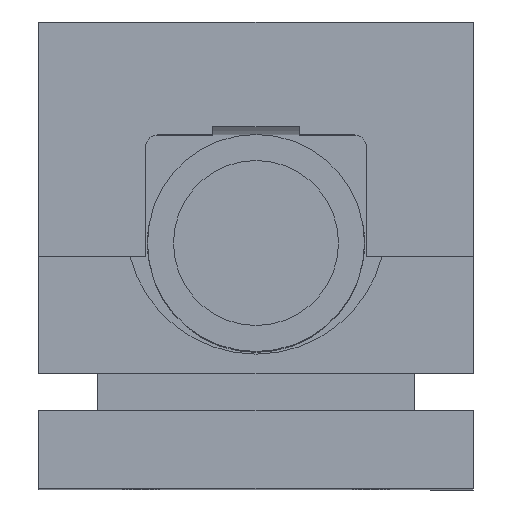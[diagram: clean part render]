
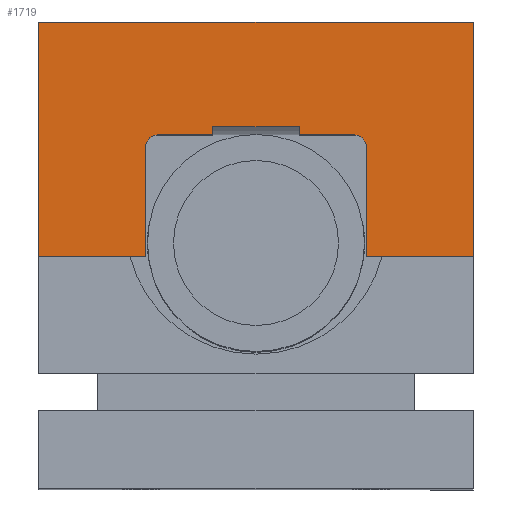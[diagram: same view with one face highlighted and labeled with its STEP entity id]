
A CAD part, top view. The second image highlights one B-rep face of the part: STEP entity #1719.
In plain terms, the highlighted planar face has unit normal (0, 0, 1).
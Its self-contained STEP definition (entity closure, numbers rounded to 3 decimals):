
#15 = ORIENTED_EDGE ( 'NONE', *, *, #9170, .T. ) ;
#114 = ORIENTED_EDGE ( 'NONE', *, *, #2261, .T. ) ;
#120 = EDGE_CURVE ( 'NONE', #4062, #5600, #11059, .T. ) ;
#192 = PLANE ( 'NONE',  #7586 ) ;
#283 = VERTEX_POINT ( 'NONE', #3400 ) ;
#382 = CARTESIAN_POINT ( 'NONE',  ( -10., -2.125, 9.5 ) ) ;
#390 = ORIENTED_EDGE ( 'NONE', *, *, #1443, .T. ) ;
#402 = ORIENTED_EDGE ( 'NONE', *, *, #1465, .T. ) ;
#484 = LINE ( 'NONE', #10732, #6746 ) ;
#491 = VECTOR ( 'NONE', #10951, 1000. ) ;
#562 = DIRECTION ( 'NONE',  ( -1., 0., 0. ) ) ;
#630 = CARTESIAN_POINT ( 'NONE',  ( -50., -28., 9.5 ) ) ;
#931 = VECTOR ( 'NONE', #9329, 1000. ) ;
#984 = CARTESIAN_POINT ( 'NONE',  ( -25.5, -28., 9.5 ) ) ;
#1039 = FACE_OUTER_BOUND ( 'NONE', #3845, .T. ) ;
#1168 = CARTESIAN_POINT ( 'NONE',  ( -50., -28., 9.5 ) ) ;
#1171 = CARTESIAN_POINT ( 'NONE',  ( 22.5, -3., 9.5 ) ) ;
#1321 = EDGE_CURVE ( 'NONE', #2129, #8644, #5467, .T. ) ;
#1366 = EDGE_CURVE ( 'NONE', #283, #10219, #484, .T. ) ;
#1396 = LINE ( 'NONE', #4816, #2155 ) ;
#1443 = EDGE_CURVE ( 'NONE', #8965, #8644, #7367, .T. ) ;
#1464 = VECTOR ( 'NONE', #7994, 1000. ) ;
#1465 = EDGE_CURVE ( 'NONE', #9475, #4062, #1497, .T. ) ;
#1483 = ORIENTED_EDGE ( 'NONE', *, *, #1366, .T. ) ;
#1497 = LINE ( 'NONE', #9161, #491 ) ;
#1599 = ORIENTED_EDGE ( 'NONE', *, *, #2488, .T. ) ;
#1602 = DIRECTION ( 'NONE',  ( 1., 0., 0. ) ) ;
#1719 = ADVANCED_FACE ( 'NONE', ( #1039 ), #192, .F. ) ;
#1765 = AXIS2_PLACEMENT_3D ( 'NONE', #3716, #7122, #8080 ) ;
#1946 = ORIENTED_EDGE ( 'NONE', *, *, #10748, .T. ) ;
#2066 = CARTESIAN_POINT ( 'NONE',  ( 10., 1.875, 9.5 ) ) ;
#2129 = VERTEX_POINT ( 'NONE', #3779 ) ;
#2155 = VECTOR ( 'NONE', #4032, 1000. ) ;
#2188 = ORIENTED_EDGE ( 'NONE', *, *, #4738, .T. ) ;
#2261 = EDGE_CURVE ( 'NONE', #7279, #8965, #6402, .T. ) ;
#2401 = DIRECTION ( 'NONE',  ( 1., 0., 0. ) ) ;
#2488 = EDGE_CURVE ( 'NONE', #10219, #7554, #6092, .T. ) ;
#2555 = EDGE_CURVE ( 'NONE', #7908, #9828, #8840, .T. ) ;
#2571 = VECTOR ( 'NONE', #7294, 1000. ) ;
#2670 = AXIS2_PLACEMENT_3D ( 'NONE', #1171, #4585, #7261 ) ;
#2733 = ORIENTED_EDGE ( 'NONE', *, *, #120, .T. ) ;
#2942 = DIRECTION ( 'NONE',  ( 0., 0., -1. ) ) ;
#3268 = CARTESIAN_POINT ( 'NONE',  ( 25.5, -28., 9.5 ) ) ;
#3282 = ORIENTED_EDGE ( 'NONE', *, *, #10898, .T. ) ;
#3400 = CARTESIAN_POINT ( 'NONE',  ( 25.5, -28., 9.5 ) ) ;
#3716 = CARTESIAN_POINT ( 'NONE',  ( -22.5, -3., 9.5 ) ) ;
#3779 = CARTESIAN_POINT ( 'NONE',  ( -10., 1.875, 9.5 ) ) ;
#3822 = LINE ( 'NONE', #5645, #8624 ) ;
#3845 = EDGE_LOOP ( 'NONE', ( #7292, #2188, #15, #402, #2733, #10985, #1483, #1599, #9126, #1946, #9804, #3282, #114, #390 ) ) ;
#4032 = DIRECTION ( 'NONE',  ( 0., -1., 0. ) ) ;
#4062 = VERTEX_POINT ( 'NONE', #7049 ) ;
#4142 = VECTOR ( 'NONE', #4418, 1000. ) ;
#4218 = VERTEX_POINT ( 'NONE', #2066 ) ;
#4418 = DIRECTION ( 'NONE',  ( 0., 1., 0. ) ) ;
#4585 = DIRECTION ( 'NONE',  ( 0., 0., -1. ) ) ;
#4738 = EDGE_CURVE ( 'NONE', #2129, #4218, #8928, .T. ) ;
#4816 = CARTESIAN_POINT ( 'NONE',  ( 10., -2.125, 9.5 ) ) ;
#4908 = CARTESIAN_POINT ( 'NONE',  ( -10., 0., 9.5 ) ) ;
#4995 = DIRECTION ( 'NONE',  ( 0., -1., 0. ) ) ;
#5218 = VECTOR ( 'NONE', #7431, 1000. ) ;
#5292 = CARTESIAN_POINT ( 'NONE',  ( -25.5, -3., 9.5 ) ) ;
#5455 = CARTESIAN_POINT ( 'NONE',  ( -50., 26., 9.5 ) ) ;
#5467 = LINE ( 'NONE', #382, #7466 ) ;
#5600 = VERTEX_POINT ( 'NONE', #6033 ) ;
#5645 = CARTESIAN_POINT ( 'NONE',  ( -50., 26., 9.5 ) ) ;
#5836 = CARTESIAN_POINT ( 'NONE',  ( 50., 26., 9.5 ) ) ;
#6033 = CARTESIAN_POINT ( 'NONE',  ( 25.5, -3., 9.5 ) ) ;
#6092 = LINE ( 'NONE', #10299, #4142 ) ;
#6161 = VERTEX_POINT ( 'NONE', #5455 ) ;
#6368 = CARTESIAN_POINT ( 'NONE',  ( -50., -28., 9.5 ) ) ;
#6402 = CIRCLE ( 'NONE', #1765, 3. ) ;
#6554 = EDGE_CURVE ( 'NONE', #5600, #283, #10934, .T. ) ;
#6746 = VECTOR ( 'NONE', #1602, 1000. ) ;
#7049 = CARTESIAN_POINT ( 'NONE',  ( 22.5, 0., 9.5 ) ) ;
#7072 = CARTESIAN_POINT ( 'NONE',  ( 10., 0., 9.5 ) ) ;
#7122 = DIRECTION ( 'NONE',  ( 0., 0., -1. ) ) ;
#7261 = DIRECTION ( 'NONE',  ( -1., 0., 0. ) ) ;
#7279 = VERTEX_POINT ( 'NONE', #5292 ) ;
#7292 = ORIENTED_EDGE ( 'NONE', *, *, #1321, .F. ) ;
#7294 = DIRECTION ( 'NONE',  ( 1., 0., 0. ) ) ;
#7367 = LINE ( 'NONE', #8271, #10678 ) ;
#7431 = DIRECTION ( 'NONE',  ( 0., -1., 0. ) ) ;
#7466 = VECTOR ( 'NONE', #10623, 1000. ) ;
#7554 = VERTEX_POINT ( 'NONE', #5836 ) ;
#7586 = AXIS2_PLACEMENT_3D ( 'NONE', #10609, #2942, #9765 ) ;
#7908 = VERTEX_POINT ( 'NONE', #630 ) ;
#7960 = VECTOR ( 'NONE', #4995, 1000. ) ;
#7994 = DIRECTION ( 'NONE',  ( 1., 0., 0. ) ) ;
#8080 = DIRECTION ( 'NONE',  ( -1., 0., 0. ) ) ;
#8257 = CARTESIAN_POINT ( 'NONE',  ( -22.5, 0., 9.5 ) ) ;
#8271 = CARTESIAN_POINT ( 'NONE',  ( 25.5, 0., 9.5 ) ) ;
#8445 = CARTESIAN_POINT ( 'NONE',  ( -25.5, 0., 9.5 ) ) ;
#8624 = VECTOR ( 'NONE', #562, 1000. ) ;
#8644 = VERTEX_POINT ( 'NONE', #4908 ) ;
#8840 = LINE ( 'NONE', #1168, #1464 ) ;
#8900 = LINE ( 'NONE', #6368, #5218 ) ;
#8928 = LINE ( 'NONE', #9820, #2571 ) ;
#8965 = VERTEX_POINT ( 'NONE', #8257 ) ;
#9126 = ORIENTED_EDGE ( 'NONE', *, *, #10870, .T. ) ;
#9161 = CARTESIAN_POINT ( 'NONE',  ( 25.5, 0., 9.5 ) ) ;
#9170 = EDGE_CURVE ( 'NONE', #4218, #9475, #1396, .T. ) ;
#9329 = DIRECTION ( 'NONE',  ( 0., 1., 0. ) ) ;
#9382 = LINE ( 'NONE', #8445, #931 ) ;
#9468 = CARTESIAN_POINT ( 'NONE',  ( 50., -28., 9.5 ) ) ;
#9475 = VERTEX_POINT ( 'NONE', #7072 ) ;
#9765 = DIRECTION ( 'NONE',  ( -1., 0., 0. ) ) ;
#9804 = ORIENTED_EDGE ( 'NONE', *, *, #2555, .T. ) ;
#9820 = CARTESIAN_POINT ( 'NONE',  ( -10., 1.875, 9.5 ) ) ;
#9828 = VERTEX_POINT ( 'NONE', #984 ) ;
#10219 = VERTEX_POINT ( 'NONE', #9468 ) ;
#10299 = CARTESIAN_POINT ( 'NONE',  ( 50., 26., 9.5 ) ) ;
#10609 = CARTESIAN_POINT ( 'NONE',  ( 0., 0., 9.5 ) ) ;
#10623 = DIRECTION ( 'NONE',  ( 0., -1., 0. ) ) ;
#10678 = VECTOR ( 'NONE', #2401, 1000. ) ;
#10732 = CARTESIAN_POINT ( 'NONE',  ( 50., -28., 9.5 ) ) ;
#10748 = EDGE_CURVE ( 'NONE', #6161, #7908, #8900, .T. ) ;
#10870 = EDGE_CURVE ( 'NONE', #7554, #6161, #3822, .T. ) ;
#10898 = EDGE_CURVE ( 'NONE', #9828, #7279, #9382, .T. ) ;
#10934 = LINE ( 'NONE', #3268, #7960 ) ;
#10951 = DIRECTION ( 'NONE',  ( 1., 0., 0. ) ) ;
#10985 = ORIENTED_EDGE ( 'NONE', *, *, #6554, .T. ) ;
#11059 = CIRCLE ( 'NONE', #2670, 3. ) ;
